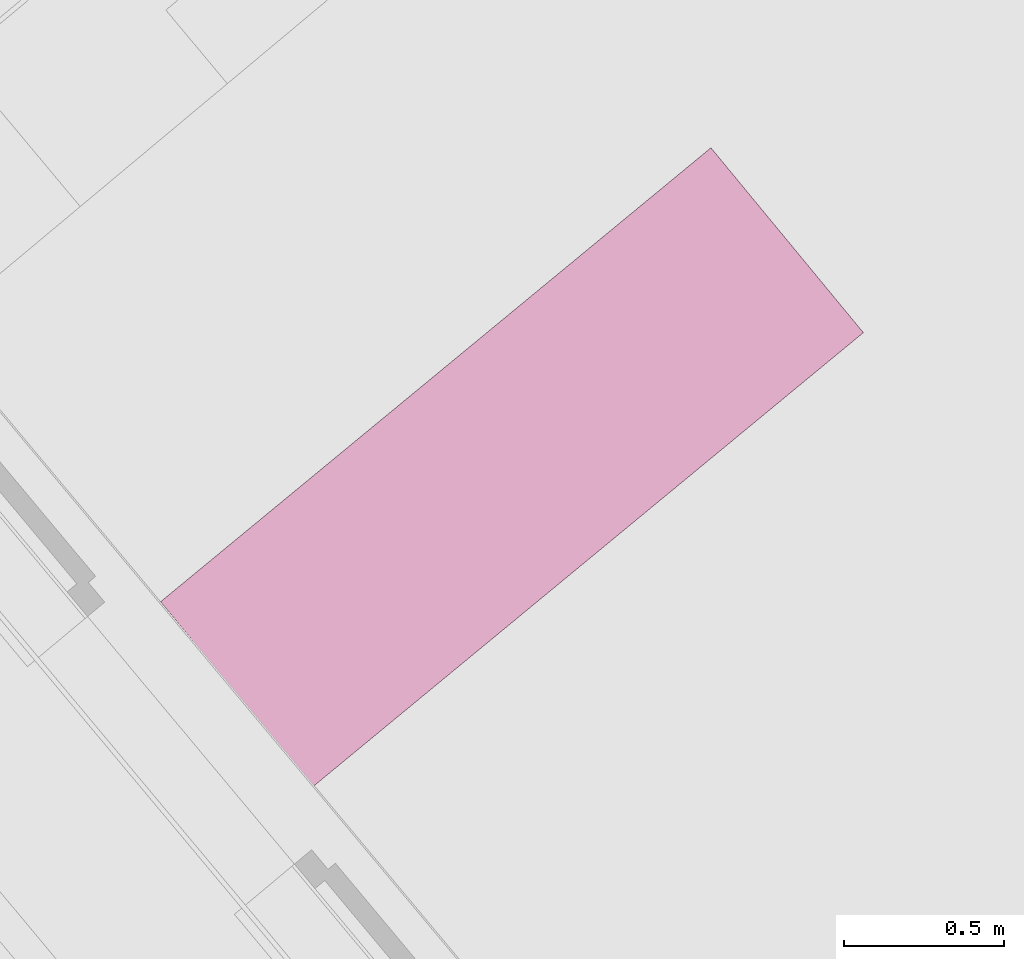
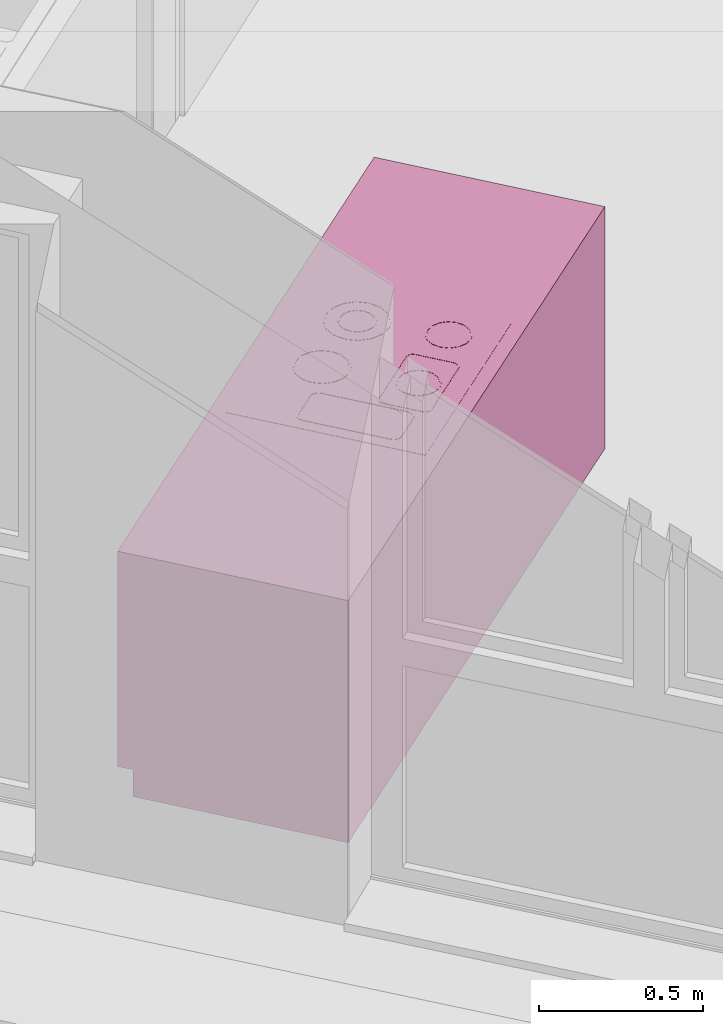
# One storey, part 55 of 58: 1 furniture element.
"""IFC4 building model written with IfcOpenShell, lengths in metres."""

from ifc_helpers import new_model, entity, si_unit, converted_unit, derived_unit, direction, frame, origin_with_axes, place, context, subcontext, project, spatial, polygons, source, transform, mapped, type_object, element, save


model = new_model("IFC4")

# Units and contexts
model_context = context("Model", 3, precision=1e-05, world=origin_with_axes(), true_north=direction((0.0, 1.0)))
body_context = subcontext(model_context, "Body", "Model", "MODEL_VIEW")
ifc_project = project(units=[si_unit("LENGTHUNIT", "METRE"), si_unit("AREAUNIT", "SQUARE_METRE"), si_unit("VOLUMEUNIT", "CUBIC_METRE"), converted_unit("PLANEANGLEUNIT", "DEGREE", entity("IfcPlaneAngleMeasure", 0.0174532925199), si_unit("PLANEANGLEUNIT", "RADIAN"), dimensions=[0, 0, 0, 0, 0, 0, 0]), converted_unit("TIMEUNIT", "Year", entity("IfcTimeMeasure", 31556926.0), si_unit("TIMEUNIT", "SECOND"), dimensions=[0, 0, 1, 0, 0, 0, 0]), si_unit("MASSUNIT", "GRAM", prefix="KILO"), si_unit("THERMODYNAMICTEMPERATUREUNIT", "DEGREE_CELSIUS"), si_unit("LUMINOUSINTENSITYUNIT", "LUMEN"), si_unit("ENERGYUNIT", "JOULE", prefix="MEGA"), derived_unit("THERMALCONDUCTANCEUNIT", [(si_unit("POWERUNIT", "WATT"), 1), (si_unit("LENGTHUNIT", "METRE"), -1), (si_unit("THERMODYNAMICTEMPERATUREUNIT", "KELVIN"), -1)]), derived_unit("SPECIFICHEATCAPACITYUNIT", [(si_unit("ENERGYUNIT", "JOULE"), 1), (si_unit("MASSUNIT", "GRAM", prefix="KILO"), -1), (si_unit("THERMODYNAMICTEMPERATUREUNIT", "KELVIN"), -1)]), derived_unit("MASSDENSITYUNIT", [(si_unit("MASSUNIT", "GRAM", prefix="KILO"), 1), (si_unit("VOLUMEUNIT", "CUBIC_METRE"), -1)])], contexts=[model_context])

# Site, building, storey
site_placement = place(None, frame((-0.00153261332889, -0.00661245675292, 0.0), z_axis=(0.0, 0.0, 1.0), x_axis=(1.0, 0.0, 0.0)))
site = spatial("IfcSite", under=ifc_project, at=site_placement, Name="Site", CompositionType="ELEMENT")
building_placement = place(site_placement, origin_with_axes())
building = spatial("IfcBuilding", under=site, at=building_placement, Name="Building", CompositionType="ELEMENT")
storey_placement = place(building_placement, frame((0.0, 0.0, 5.7), z_axis=(0.0, 0.0, 1.0), x_axis=(1.0, 0.0, 0.0)))
storey = spatial("IfcBuildingStorey", under=building, at=storey_placement, Name="DG1", CompositionType="ELEMENT", Elevation=5.7)

# Furniture
furniture_type = type_object("IfcFurnitureType", Name="Konzeptküche 26", AssemblyPlace="NOTDEFINED", PredefinedType="NOTDEFINED")
shared_shape = source(origin_with_axes(), body_context, "Body", "Tessellation", [
    polygons([(0.451386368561, 0.0111886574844, 0.0), (2.6840690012, -0.00300580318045, 0.0), (2.6840690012, -0.00300580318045, 0.1), (0.451386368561, 0.0111886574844, 0.1), (0.455836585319, 0.711174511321, 0.0), (2.68851921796, 0.696980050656, 0.0), (2.68851921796, 0.696980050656, 0.1), (0.455836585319, 0.711174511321, 0.1)], [[[1, 2, 3, 4]], [[1, 5, 6, 2]], [[2, 6, 7, 3]], [[4, 3, 7, 8]], [[5, 1, 4, 8]], [[6, 5, 8, 7]]], closed=True),
    polygons([(0.451386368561, 0.0111886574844, 0.85), (2.6840690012, -0.00300580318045, 0.85), (2.6840690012, -0.00300580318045, 0.9), (0.451386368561, 0.0111886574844, 0.9), (0.456154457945, 0.76117350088, 0.85), (2.68883709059, 0.746979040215, 0.85), (2.68883709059, 0.746979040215, 0.9), (0.456154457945, 0.76117350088, 0.9)], [[[1, 2, 3, 4]], [[1, 5, 6, 2]], [[2, 6, 7, 3]], [[4, 3, 7, 8]], [[5, 1, 4, 8]], [[6, 5, 8, 7]]], closed=True),
    polygons([(0.451386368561, 0.0111886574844, 0.1), (2.6840690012, -0.00300580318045, 0.1), (2.6840690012, -0.00300580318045, 0.85), (0.451386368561, 0.0111886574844, 0.85), (0.456154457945, 0.76117350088, 0.1), (2.68883709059, 0.746979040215, 0.1), (2.68883709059, 0.746979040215, 0.85), (0.456154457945, 0.76117350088, 0.85)], [[[1, 2, 3, 4]], [[1, 5, 6, 2]], [[2, 6, 7, 3]], [[4, 3, 7, 8]], [[5, 1, 4, 8]], [[6, 5, 8, 7]]], closed=True),
    polygons([(2.01007115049, 0.701293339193, 0.9), (2.00593880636, 0.0513064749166, 0.9), (1.25595396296, 0.0560745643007, 0.9), (1.26008630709, 0.706061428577, 0.9), (2.01007115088, 0.70129333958, 0.9008), (2.00593880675, 0.0513064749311, 0.9008), (1.25595396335, 0.0560745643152, 0.9008), (1.26008630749, 0.706061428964, 0.9008), (2.00322248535, 0.694531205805, 0.901999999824), (1.99917667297, 0.0581551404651, 0.901999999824), (1.26280262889, 0.0628366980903, 0.901999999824), (1.26684844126, 0.69921276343, 0.901999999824)], [[[1, 2, 3, 4]], [[2, 1, 5, 6]], [[3, 2, 6, 7]], [[4, 3, 7, 8]], [[1, 4, 8, 5]], [[6, 5, 9, 10]], [[7, 6, 10, 11]], [[8, 7, 11, 12]], [[5, 8, 12, 9]], [[11, 10, 9, 12]]], closed=True),
    polygons([(1.95268579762, 0.208298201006, 0.902), (1.94734355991, 0.236077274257, 0.902), (1.94734355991, 0.236077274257, 0.903), (1.95268579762, 0.208298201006, 0.903), (1.9469907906, 0.180589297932, 0.902), (1.93112555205, 0.157168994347, 0.902), (1.9075054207, 0.141602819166, 0.902), (1.87972634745, 0.136260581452, 0.902), (1.85201744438, 0.141955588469, 0.902), (1.82859714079, 0.157820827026, 0.902), (1.81303096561, 0.181440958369, 0.902), (1.8076887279, 0.20922003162, 0.902), (1.81338373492, 0.236928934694, 0.902), (1.82924897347, 0.260349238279, 0.902), (1.85286910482, 0.275915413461, 0.902), (1.88064817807, 0.281257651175, 0.902), (1.90835708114, 0.275562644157, 0.902), (1.93177738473, 0.259697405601, 0.902), (1.94768589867, 0.208329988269, 0.902), (1.94271209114, 0.234193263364, 0.902), (1.92821944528, 0.256184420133, 0.902), (1.90641433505, 0.270955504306, 0.902), (1.8806163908, 0.276257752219, 0.902), (1.85475311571, 0.271283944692, 0.902), (1.83276195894, 0.256791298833, 0.902), (1.81799087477, 0.234986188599, 0.902), (1.81268862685, 0.209188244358, 0.902), (1.81766243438, 0.183324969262, 0.902), (1.83215508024, 0.161333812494, 0.902), (1.85396019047, 0.146562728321, 0.902), (1.87975813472, 0.141260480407, 0.902), (1.90562140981, 0.146234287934, 0.902), (1.92761256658, 0.160726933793, 0.902), (1.94238365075, 0.182532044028, 0.902), (1.93177738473, 0.259697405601, 0.903), (1.90835708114, 0.275562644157, 0.903), (1.88064817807, 0.281257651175, 0.903), (1.85286910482, 0.275915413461, 0.903), (1.82924897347, 0.260349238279, 0.903), (1.81338373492, 0.236928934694, 0.903), (1.8076887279, 0.20922003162, 0.903), (1.81303096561, 0.181440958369, 0.903), (1.82859714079, 0.157820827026, 0.903), (1.85201744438, 0.141955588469, 0.903), (1.87972634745, 0.136260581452, 0.903), (1.9075054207, 0.141602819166, 0.903), (1.93112555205, 0.157168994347, 0.903), (1.9469907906, 0.180589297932, 0.903), (1.94768589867, 0.208329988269, 0.903), (1.94238365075, 0.182532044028, 0.903), (1.92761256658, 0.160726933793, 0.903), (1.90562140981, 0.146234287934, 0.903), (1.87975813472, 0.141260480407, 0.903), (1.85396019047, 0.146562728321, 0.903), (1.83215508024, 0.161333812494, 0.903), (1.81766243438, 0.183324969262, 0.903), (1.81268862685, 0.209188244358, 0.903), (1.81799087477, 0.234986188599, 0.903), (1.83276195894, 0.256791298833, 0.903), (1.85475311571, 0.271283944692, 0.903), (1.8806163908, 0.276257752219, 0.903), (1.90641433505, 0.270955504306, 0.903), (1.92821944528, 0.256184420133, 0.903), (1.94271209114, 0.234193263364, 0.903)], [[[1, 2, 3, 4]], [[1, 5, 6, 7, 8, 9, 10, 11, 12, 13, 14, 15, 16, 17, 18, 2], [19, 20, 21, 22, 23, 24, 25, 26, 27, 28, 29, 30, 31, 32, 33, 34]], [[2, 18, 35, 3]], [[4, 3, 35, 36, 37, 38, 39, 40, 41, 42, 43, 44, 45, 46, 47, 48], [49, 50, 51, 52, 53, 54, 55, 56, 57, 58, 59, 60, 61, 62, 63, 64]], [[5, 1, 4, 48]], [[6, 5, 48, 47]], [[7, 6, 47, 46]], [[8, 7, 46, 45]], [[9, 8, 45, 44]], [[10, 9, 44, 43]], [[11, 10, 43, 42]], [[12, 11, 42, 41]], [[13, 12, 41, 40]], [[14, 13, 40, 39]], [[15, 14, 39, 38]], [[16, 15, 38, 37]], [[17, 16, 37, 36]], [[18, 17, 36, 35]], [[20, 19, 49, 64]], [[21, 20, 64, 63]], [[22, 21, 63, 62]], [[23, 22, 62, 61]], [[24, 23, 61, 60]], [[25, 24, 60, 59]], [[26, 25, 59, 58]], [[27, 26, 58, 57]], [[28, 27, 57, 56]], [[29, 28, 56, 55]], [[30, 29, 55, 54]], [[31, 30, 54, 53]], [[32, 31, 53, 52]], [[33, 32, 52, 51]], [[34, 33, 51, 50]], [[19, 34, 50, 49]]], closed=True),
    polygons([(1.9127590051, 0.495207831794, 0.902), (1.90833784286, 0.518197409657, 0.902), (1.90833784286, 0.518197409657, 0.903), (1.9127590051, 0.495207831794, 0.903), (1.90804589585, 0.472276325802, 0.902), (1.89491604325, 0.452894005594, 0.902), (1.87536834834, 0.44001165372, 0.902), (1.85237877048, 0.435590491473, 0.902), (1.82944726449, 0.440303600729, 0.902), (1.81006494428, 0.453433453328, 0.902), (1.7971825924, 0.472981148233, 0.902), (1.79276143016, 0.495970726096, 0.902), (1.79747453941, 0.518902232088, 0.902), (1.81060439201, 0.538284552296, 0.902), (1.83015208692, 0.551166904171, 0.902), (1.85314166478, 0.555588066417, 0.902), (1.87607317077, 0.550874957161, 0.902), (1.89545549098, 0.537745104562, 0.902), (1.90775910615, 0.495239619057, 0.902), (1.90370637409, 0.516313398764, 0.902), (1.89189755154, 0.534232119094, 0.902), (1.87413042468, 0.546267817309, 0.902), (1.85310987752, 0.550588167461, 0.902), (1.83203609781, 0.546535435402, 0.902), (1.81411737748, 0.53472661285, 0.902), (1.80208167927, 0.516959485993, 0.902), (1.79776132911, 0.495938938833, 0.902), (1.80181406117, 0.474865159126, 0.902), (1.81362288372, 0.456946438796, 0.902), (1.83139001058, 0.444910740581, 0.902), (1.85241055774, 0.440590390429, 0.902), (1.87348433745, 0.444643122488, 0.902), (1.89140305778, 0.45645194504, 0.902), (1.90343875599, 0.474219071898, 0.902), (1.89545549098, 0.537745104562, 0.903), (1.87607317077, 0.550874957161, 0.903), (1.85314166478, 0.555588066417, 0.903), (1.83015208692, 0.551166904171, 0.903), (1.81060439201, 0.538284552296, 0.903), (1.79747453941, 0.518902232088, 0.903), (1.79276143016, 0.495970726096, 0.903), (1.7971825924, 0.472981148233, 0.903), (1.81006494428, 0.453433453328, 0.903), (1.82944726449, 0.440303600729, 0.903), (1.85237877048, 0.435590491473, 0.903), (1.87536834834, 0.44001165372, 0.903), (1.89491604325, 0.452894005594, 0.903), (1.90804589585, 0.472276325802, 0.903), (1.90775910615, 0.495239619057, 0.903), (1.90343875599, 0.474219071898, 0.903), (1.89140305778, 0.45645194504, 0.903), (1.87348433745, 0.444643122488, 0.903), (1.85241055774, 0.440590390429, 0.903), (1.83139001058, 0.444910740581, 0.903), (1.81362288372, 0.456946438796, 0.903), (1.80181406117, 0.474865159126, 0.903), (1.79776132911, 0.495938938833, 0.903), (1.80208167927, 0.516959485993, 0.903), (1.81411737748, 0.53472661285, 0.903), (1.83203609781, 0.546535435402, 0.903), (1.85310987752, 0.550588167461, 0.903), (1.87413042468, 0.546267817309, 0.903), (1.89189755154, 0.534232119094, 0.903), (1.90370637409, 0.516313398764, 0.903)], [[[1, 2, 3, 4]], [[1, 5, 6, 7, 8, 9, 10, 11, 12, 13, 14, 15, 16, 17, 18, 2], [19, 20, 21, 22, 23, 24, 25, 26, 27, 28, 29, 30, 31, 32, 33, 34]], [[2, 18, 35, 3]], [[4, 3, 35, 36, 37, 38, 39, 40, 41, 42, 43, 44, 45, 46, 47, 48], [49, 50, 51, 52, 53, 54, 55, 56, 57, 58, 59, 60, 61, 62, 63, 64]], [[5, 1, 4, 48]], [[6, 5, 48, 47]], [[7, 6, 47, 46]], [[8, 7, 46, 45]], [[9, 8, 45, 44]], [[10, 9, 44, 43]], [[11, 10, 43, 42]], [[12, 11, 42, 41]], [[13, 12, 41, 40]], [[14, 13, 40, 39]], [[15, 14, 39, 38]], [[16, 15, 38, 37]], [[17, 16, 37, 36]], [[18, 17, 36, 35]], [[20, 19, 49, 64]], [[21, 20, 64, 63]], [[22, 21, 63, 62]], [[23, 22, 62, 61]], [[24, 23, 61, 60]], [[25, 24, 60, 59]], [[26, 25, 59, 58]], [[27, 26, 58, 57]], [[28, 27, 57, 56]], [[29, 28, 56, 55]], [[30, 29, 55, 54]], [[31, 30, 54, 53]], [[32, 31, 53, 52]], [[33, 32, 52, 51]], [[34, 33, 51, 50]], [[19, 34, 50, 49]]], closed=True),
    polygons([(1.95775809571, 0.494921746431, 0.902), (1.95002106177, 0.535153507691, 0.902), (1.95002106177, 0.535153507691, 0.903), (1.95775809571, 0.494921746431, 0.903), (1.94951015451, 0.454791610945, 0.902), (1.92653291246, 0.420872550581, 0.902), (1.89232444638, 0.3983284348, 0.902), (1.85209268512, 0.39059140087, 0.902), (1.81196254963, 0.398839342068, 0.902), (1.77804348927, 0.421816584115, 0.902), (1.75549937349, 0.456025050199, 0.902), (1.74776233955, 0.496256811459, 0.902), (1.75601028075, 0.536386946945, 0.902), (1.7789875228, 0.57030600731, 0.902), (1.81319598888, 0.59285012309, 0.902), (1.85342775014, 0.60058715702, 0.902), (1.89355788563, 0.592339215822, 0.902), (1.92747694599, 0.569361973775, 0.902), (1.95275819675, 0.494953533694, 0.902), (1.94538959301, 0.533269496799, 0.902), (1.92391900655, 0.565848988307, 0.902), (1.89161513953, 0.587732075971, 0.902), (1.85339596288, 0.595587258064, 0.902), (1.81507999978, 0.588218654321, 0.902), (1.78250050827, 0.566748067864, 0.902), (1.7606174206, 0.53444420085, 0.902), (1.75276223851, 0.496225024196, 0.902), (1.76013084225, 0.457909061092, 0.902), (1.78160142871, 0.425329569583, 0.902), (1.81390529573, 0.403446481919, 0.902), (1.85212447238, 0.395591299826, 0.902), (1.89044043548, 0.402959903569, 0.902), (1.92301992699, 0.424430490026, 0.902), (1.94490301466, 0.456734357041, 0.902), (1.92747694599, 0.569361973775, 0.903), (1.89355788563, 0.592339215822, 0.903), (1.85342775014, 0.60058715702, 0.903), (1.81319598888, 0.59285012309, 0.903), (1.7789875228, 0.57030600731, 0.903), (1.75601028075, 0.536386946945, 0.903), (1.74776233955, 0.496256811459, 0.903), (1.75549937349, 0.456025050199, 0.903), (1.77804348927, 0.421816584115, 0.903), (1.81196254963, 0.398839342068, 0.903), (1.85209268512, 0.39059140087, 0.903), (1.89232444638, 0.3983284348, 0.903), (1.92653291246, 0.420872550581, 0.903), (1.94951015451, 0.454791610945, 0.903), (1.95275819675, 0.494953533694, 0.903), (1.94490301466, 0.456734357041, 0.903), (1.92301992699, 0.424430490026, 0.903), (1.89044043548, 0.402959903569, 0.903), (1.85212447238, 0.395591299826, 0.903), (1.81390529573, 0.403446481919, 0.903), (1.78160142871, 0.425329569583, 0.903), (1.76013084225, 0.457909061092, 0.903), (1.75276223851, 0.496225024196, 0.903), (1.7606174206, 0.53444420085, 0.903), (1.78250050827, 0.566748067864, 0.903), (1.81507999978, 0.588218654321, 0.903), (1.85339596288, 0.595587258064, 0.903), (1.89161513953, 0.587732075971, 0.903), (1.92391900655, 0.565848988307, 0.903), (1.94538959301, 0.533269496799, 0.903)], [[[1, 2, 3, 4]], [[1, 5, 6, 7, 8, 9, 10, 11, 12, 13, 14, 15, 16, 17, 18, 2], [19, 20, 21, 22, 23, 24, 25, 26, 27, 28, 29, 30, 31, 32, 33, 34]], [[2, 18, 35, 3]], [[4, 3, 35, 36, 37, 38, 39, 40, 41, 42, 43, 44, 45, 46, 47, 48], [49, 50, 51, 52, 53, 54, 55, 56, 57, 58, 59, 60, 61, 62, 63, 64]], [[5, 1, 4, 48]], [[6, 5, 48, 47]], [[7, 6, 47, 46]], [[8, 7, 46, 45]], [[9, 8, 45, 44]], [[10, 9, 44, 43]], [[11, 10, 43, 42]], [[12, 11, 42, 41]], [[13, 12, 41, 40]], [[14, 13, 40, 39]], [[15, 14, 39, 38]], [[16, 15, 38, 37]], [[17, 16, 37, 36]], [[18, 17, 36, 35]], [[20, 19, 49, 64]], [[21, 20, 64, 63]], [[22, 21, 63, 62]], [[23, 22, 62, 61]], [[24, 23, 61, 60]], [[25, 24, 60, 59]], [[26, 25, 59, 58]], [[27, 26, 58, 57]], [[28, 27, 57, 56]], [[29, 28, 56, 55]], [[30, 29, 55, 54]], [[31, 30, 54, 53]], [[32, 31, 53, 52]], [[33, 32, 52, 51]], [[34, 33, 51, 50]], [[19, 34, 50, 49]]], closed=True),
    polygons([(1.67867067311, 0.206790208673, 0.902), (1.67351265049, 0.233611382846, 0.902), (1.67351265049, 0.233611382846, 0.903), (1.67867067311, 0.206790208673, 0.903), (1.67317204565, 0.180036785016, 0.902), (1.65785388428, 0.157424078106, 0.902), (1.63504824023, 0.142394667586, 0.902), (1.60822706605, 0.137236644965, 0.902), (1.5814736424, 0.142735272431, 0.902), (1.55886093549, 0.158053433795, 0.902), (1.54383152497, 0.180859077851, 0.902), (1.53867350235, 0.207680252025, 0.902), (1.54417212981, 0.234433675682, 0.902), (1.55949029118, 0.257046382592, 0.902), (1.58229593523, 0.272075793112, 0.902), (1.60911710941, 0.277233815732, 0.902), (1.63587053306, 0.271735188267, 0.902), (1.65848323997, 0.256417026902, 0.902), (1.67367077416, 0.206821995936, 0.902), (1.66888118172, 0.231727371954, 0.902), (1.65492530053, 0.252904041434, 0.902), (1.63392778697, 0.267128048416, 0.902), (1.60908532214, 0.272233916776, 0.902), (1.58417994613, 0.267444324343, 0.902), (1.56300327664, 0.253488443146, 0.902), (1.54877926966, 0.232490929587, 0.902), (1.5436734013, 0.207648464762, 0.902), (1.54846299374, 0.182743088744, 0.902), (1.56241887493, 0.161566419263, 0.902), (1.58341638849, 0.147342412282, 0.902), (1.60825885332, 0.142236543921, 0.902), (1.63316422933, 0.147026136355, 0.902), (1.65434089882, 0.160982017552, 0.902), (1.6685649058, 0.181979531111, 0.902), (1.65848323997, 0.256417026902, 0.903), (1.63587053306, 0.271735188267, 0.903), (1.60911710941, 0.277233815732, 0.903), (1.58229593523, 0.272075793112, 0.903), (1.55949029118, 0.257046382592, 0.903), (1.54417212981, 0.234433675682, 0.903), (1.53867350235, 0.207680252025, 0.903), (1.54383152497, 0.180859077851, 0.903), (1.55886093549, 0.158053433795, 0.903), (1.5814736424, 0.142735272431, 0.903), (1.60822706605, 0.137236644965, 0.903), (1.63504824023, 0.142394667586, 0.903), (1.65785388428, 0.157424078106, 0.903), (1.67317204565, 0.180036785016, 0.903), (1.67367077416, 0.206821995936, 0.903), (1.6685649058, 0.181979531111, 0.903), (1.65434089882, 0.160982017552, 0.903), (1.63316422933, 0.147026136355, 0.903), (1.60825885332, 0.142236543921, 0.903), (1.58341638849, 0.147342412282, 0.903), (1.56241887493, 0.161566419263, 0.903), (1.54846299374, 0.182743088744, 0.903), (1.5436734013, 0.207648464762, 0.903), (1.54877926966, 0.232490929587, 0.903), (1.56300327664, 0.253488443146, 0.903), (1.58417994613, 0.267444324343, 0.903), (1.60908532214, 0.272233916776, 0.903), (1.63392778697, 0.267128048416, 0.903), (1.65492530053, 0.252904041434, 0.903), (1.66888118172, 0.231727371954, 0.903)], [[[1, 2, 3, 4]], [[1, 5, 6, 7, 8, 9, 10, 11, 12, 13, 14, 15, 16, 17, 18, 2], [19, 20, 21, 22, 23, 24, 25, 26, 27, 28, 29, 30, 31, 32, 33, 34]], [[2, 18, 35, 3]], [[4, 3, 35, 36, 37, 38, 39, 40, 41, 42, 43, 44, 45, 46, 47, 48], [49, 50, 51, 52, 53, 54, 55, 56, 57, 58, 59, 60, 61, 62, 63, 64]], [[5, 1, 4, 48]], [[6, 5, 48, 47]], [[7, 6, 47, 46]], [[8, 7, 46, 45]], [[9, 8, 45, 44]], [[10, 9, 44, 43]], [[11, 10, 43, 42]], [[12, 11, 42, 41]], [[13, 12, 41, 40]], [[14, 13, 40, 39]], [[15, 14, 39, 38]], [[16, 15, 38, 37]], [[17, 16, 37, 36]], [[18, 17, 36, 35]], [[20, 19, 49, 64]], [[21, 20, 64, 63]], [[22, 21, 63, 62]], [[23, 22, 62, 61]], [[24, 23, 61, 60]], [[25, 24, 60, 59]], [[26, 25, 59, 58]], [[27, 26, 58, 57]], [[28, 27, 57, 56]], [[29, 28, 56, 55]], [[30, 29, 55, 54]], [[31, 30, 54, 53]], [[32, 31, 53, 52]], [[33, 32, 52, 51]], [[34, 33, 51, 50]], [[19, 34, 50, 49]]], closed=True),
    polygons([(1.67698381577, 0.511657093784, 0.902), (1.6703520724, 0.546141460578, 0.902), (1.6703520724, 0.546141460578, 0.903), (1.67698381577, 0.511657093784, 0.903), (1.66991415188, 0.477259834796, 0.902), (1.65021937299, 0.448186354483, 0.902), (1.62089783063, 0.428862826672, 0.902), (1.58641346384, 0.422231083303, 0.902), (1.55201620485, 0.429300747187, 0.902), (1.52294272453, 0.448995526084, 0.902), (1.50361919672, 0.478317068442, 0.902), (1.49698745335, 0.512801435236, 0.902), (1.50405711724, 0.547198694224, 0.902), (1.52375189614, 0.576272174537, 0.902), (1.55307343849, 0.595595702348, 0.902), (1.58755780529, 0.602227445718, 0.902), (1.62195506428, 0.595157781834, 0.902), (1.65102854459, 0.575463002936, 0.902), (1.67198391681, 0.511688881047, 0.902), (1.66572060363, 0.544257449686, 0.902), (1.64747060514, 0.571950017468, 0.902), (1.62001231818, 0.590550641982, 0.902), (1.58752601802, 0.597227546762, 0.902), (1.55495744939, 0.590964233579, 0.902), (1.5272648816, 0.572714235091, 0.902), (1.50866425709, 0.545255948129, 0.902), (1.50198735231, 0.512769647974, 0.902), (1.50825066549, 0.480201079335, 0.902), (1.52650066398, 0.452508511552, 0.902), (1.55395895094, 0.433907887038, 0.902), (1.5864452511, 0.427230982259, 0.902), (1.61901381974, 0.433494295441, 0.902), (1.64670638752, 0.451744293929, 0.902), (1.66530701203, 0.479202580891, 0.902), (1.65102854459, 0.575463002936, 0.903), (1.62195506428, 0.595157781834, 0.903), (1.58755780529, 0.602227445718, 0.903), (1.55307343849, 0.595595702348, 0.903), (1.52375189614, 0.576272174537, 0.903), (1.50405711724, 0.547198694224, 0.903), (1.49698745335, 0.512801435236, 0.903), (1.50361919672, 0.478317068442, 0.903), (1.52294272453, 0.448995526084, 0.903), (1.55201620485, 0.429300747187, 0.903), (1.58641346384, 0.422231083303, 0.903), (1.62089783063, 0.428862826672, 0.903), (1.65021937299, 0.448186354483, 0.903), (1.66991415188, 0.477259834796, 0.903), (1.67198391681, 0.511688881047, 0.903), (1.66530701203, 0.479202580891, 0.903), (1.64670638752, 0.451744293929, 0.903), (1.61901381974, 0.433494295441, 0.903), (1.5864452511, 0.427230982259, 0.903), (1.55395895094, 0.433907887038, 0.903), (1.52650066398, 0.452508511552, 0.903), (1.50825066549, 0.480201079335, 0.903), (1.50198735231, 0.512769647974, 0.903), (1.50866425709, 0.545255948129, 0.903), (1.5272648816, 0.572714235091, 0.903), (1.55495744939, 0.590964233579, 0.903), (1.58752601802, 0.597227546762, 0.903), (1.62001231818, 0.590550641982, 0.903), (1.64747060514, 0.571950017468, 0.903), (1.66572060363, 0.544257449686, 0.903)], [[[1, 2, 3, 4]], [[1, 5, 6, 7, 8, 9, 10, 11, 12, 13, 14, 15, 16, 17, 18, 2], [19, 20, 21, 22, 23, 24, 25, 26, 27, 28, 29, 30, 31, 32, 33, 34]], [[2, 18, 35, 3]], [[4, 3, 35, 36, 37, 38, 39, 40, 41, 42, 43, 44, 45, 46, 47, 48], [49, 50, 51, 52, 53, 54, 55, 56, 57, 58, 59, 60, 61, 62, 63, 64]], [[5, 1, 4, 48]], [[6, 5, 48, 47]], [[7, 6, 47, 46]], [[8, 7, 46, 45]], [[9, 8, 45, 44]], [[10, 9, 44, 43]], [[11, 10, 43, 42]], [[12, 11, 42, 41]], [[13, 12, 41, 40]], [[14, 13, 40, 39]], [[15, 14, 39, 38]], [[16, 15, 38, 37]], [[17, 16, 37, 36]], [[18, 17, 36, 35]], [[20, 19, 49, 64]], [[21, 20, 64, 63]], [[22, 21, 63, 62]], [[23, 22, 62, 61]], [[24, 23, 61, 60]], [[25, 24, 60, 59]], [[26, 25, 59, 58]], [[27, 26, 58, 57]], [[28, 27, 57, 56]], [[29, 28, 56, 55]], [[30, 29, 55, 54]], [[31, 30, 54, 53]], [[32, 31, 53, 52]], [[33, 32, 52, 51]], [[34, 33, 51, 50]], [[19, 34, 50, 49]]], closed=True),
    polygons([(1.72815115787, 0.294201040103, 0.902), (1.49030841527, 0.295713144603, 0.902), (1.49030841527, 0.295713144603, 0.903), (1.72815115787, 0.294201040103, 0.903), (1.73655937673, 0.292472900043, 0.902), (1.74366622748, 0.287658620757, 0.902), (1.7483897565, 0.280491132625, 0.902), (1.75001084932, 0.272061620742, 0.902), (1.74917517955, 0.140617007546, 0.902), (1.74744703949, 0.132208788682, 0.902), (1.7426327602, 0.125101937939, 0.902), (1.73546527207, 0.120378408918, 0.902), (1.72703576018, 0.118757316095, 0.902), (1.48919301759, 0.120269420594, 0.902), (1.48078479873, 0.121997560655, 0.902), (1.47367794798, 0.126811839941, 0.902), (1.46895441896, 0.133979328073, 0.902), (1.46733332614, 0.142408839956, 0.902), (1.46816899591, 0.273853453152, 0.902), (1.46989713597, 0.282261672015, 0.902), (1.47471141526, 0.289368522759, 0.902), (1.48187890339, 0.294092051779, 0.902), (1.72406760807, 0.123776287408, 0.902), (1.73173080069, 0.125250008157, 0.902), (1.738246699, 0.129544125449, 0.902), (1.74262331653, 0.136004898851, 0.902), (1.74419435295, 0.143648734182, 0.902), (1.74499187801, 0.269093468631, 0.902), (1.74351815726, 0.276756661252, 0.902), (1.73922403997, 0.283272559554, 0.902), (1.73276326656, 0.287649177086, 0.902), (1.72511943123, 0.289220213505, 0.902), (1.49327656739, 0.290694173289, 0.902), (1.48561337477, 0.28922045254, 0.902), (1.47909747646, 0.284926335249, 0.902), (1.47472085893, 0.278465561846, 0.902), (1.47314982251, 0.270821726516, 0.902), (1.47235229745, 0.145376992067, 0.902), (1.4738260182, 0.137713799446, 0.902), (1.47812013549, 0.131197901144, 0.902), (1.4845809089, 0.126821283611, 0.902), (1.49222474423, 0.125250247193, 0.902), (1.48187890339, 0.294092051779, 0.903), (1.47471141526, 0.289368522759, 0.903), (1.46989713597, 0.282261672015, 0.903), (1.46816899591, 0.273853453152, 0.903), (1.46733332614, 0.142408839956, 0.903), (1.46895441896, 0.133979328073, 0.903), (1.47367794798, 0.126811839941, 0.903), (1.48078479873, 0.121997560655, 0.903), (1.48919301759, 0.120269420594, 0.903), (1.72703576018, 0.118757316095, 0.903), (1.73546527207, 0.120378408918, 0.903), (1.7426327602, 0.125101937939, 0.903), (1.74744703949, 0.132208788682, 0.903), (1.74917517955, 0.140617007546, 0.903), (1.75001084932, 0.272061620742, 0.903), (1.7483897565, 0.280491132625, 0.903), (1.74366622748, 0.287658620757, 0.903), (1.73655937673, 0.292472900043, 0.903), (1.72406760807, 0.123776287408, 0.903), (1.49222474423, 0.125250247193, 0.903), (1.4845809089, 0.126821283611, 0.903), (1.47812013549, 0.131197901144, 0.903), (1.4738260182, 0.137713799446, 0.903), (1.47235229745, 0.145376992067, 0.903), (1.47314982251, 0.270821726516, 0.903), (1.47472085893, 0.278465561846, 0.903), (1.47909747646, 0.284926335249, 0.903), (1.48561337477, 0.28922045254, 0.903), (1.49327656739, 0.290694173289, 0.903), (1.72511943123, 0.289220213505, 0.903), (1.73276326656, 0.287649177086, 0.903), (1.73922403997, 0.283272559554, 0.903), (1.74351815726, 0.276756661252, 0.903), (1.74499187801, 0.269093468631, 0.903), (1.74419435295, 0.143648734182, 0.903), (1.74262331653, 0.136004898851, 0.903), (1.738246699, 0.129544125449, 0.903), (1.73173080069, 0.125250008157, 0.903)], [[[1, 2, 3, 4]], [[1, 5, 6, 7, 8, 9, 10, 11, 12, 13, 14, 15, 16, 17, 18, 19, 20, 21, 22, 2], [23, 24, 25, 26, 27, 28, 29, 30, 31, 32, 33, 34, 35, 36, 37, 38, 39, 40, 41, 42]], [[2, 22, 43, 3]], [[4, 3, 43, 44, 45, 46, 47, 48, 49, 50, 51, 52, 53, 54, 55, 56, 57, 58, 59, 60], [61, 62, 63, 64, 65, 66, 67, 68, 69, 70, 71, 72, 73, 74, 75, 76, 77, 78, 79, 80]], [[5, 1, 4, 60]], [[6, 5, 60, 59]], [[7, 6, 59, 58]], [[8, 7, 58, 57]], [[9, 8, 57, 56]], [[10, 9, 56, 55]], [[11, 10, 55, 54]], [[12, 11, 54, 53]], [[13, 12, 53, 52]], [[14, 13, 52, 51]], [[15, 14, 51, 50]], [[16, 15, 50, 49]], [[17, 16, 49, 48]], [[18, 17, 48, 47]], [[19, 18, 47, 46]], [[20, 19, 46, 45]], [[21, 20, 45, 44]], [[22, 21, 44, 43]], [[24, 23, 61, 80]], [[25, 24, 80, 79]], [[26, 25, 79, 78]], [[27, 26, 78, 77]], [[28, 27, 77, 76]], [[29, 28, 76, 75]], [[30, 29, 75, 74]], [[31, 30, 74, 73]], [[32, 31, 73, 72]], [[33, 32, 72, 71]], [[34, 33, 71, 70]], [[35, 34, 70, 69]], [[36, 35, 69, 68]], [[37, 36, 68, 67]], [[38, 37, 67, 66]], [[39, 38, 66, 65]], [[40, 39, 65, 64]], [[41, 40, 64, 63]], [[42, 41, 63, 62]], [[23, 42, 62, 61]]], closed=True),
    polygons([(1.45676176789, 0.182500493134, 0.902), (1.45859271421, 0.470494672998, 0.902), (1.45859271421, 0.470494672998, 0.903), (1.45676176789, 0.182500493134, 0.903), (1.45471942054, 0.172563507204, 0.902), (1.44902981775, 0.16416450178, 0.902), (1.44055914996, 0.158582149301, 0.902), (1.43059699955, 0.156666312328, 0.902), (1.3225991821, 0.157352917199, 0.902), (1.31266219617, 0.159395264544, 0.902), (1.30426319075, 0.165084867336, 0.902), (1.29868083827, 0.173555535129, 0.902), (1.2967650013, 0.183517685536, 0.902), (1.29859594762, 0.4715118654, 0.902), (1.30063829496, 0.48144885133, 0.902), (1.30632789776, 0.489847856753, 0.902), (1.31479856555, 0.495430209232, 0.902), (1.32476071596, 0.497346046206, 0.902), (1.4327585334, 0.496659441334, 0.902), (1.44269551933, 0.49461709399, 0.902), (1.45109452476, 0.488927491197, 0.902), (1.45667687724, 0.480456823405, 0.902), (1.42562888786, 0.161697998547, 0.902), (1.43559103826, 0.16361383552, 0.902), (1.44406170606, 0.169196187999, 0.902), (1.44975130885, 0.177595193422, 0.902), (1.45179365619, 0.187532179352, 0.902), (1.45356102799, 0.465526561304, 0.902), (1.45164519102, 0.475488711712, 0.902), (1.44606283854, 0.483959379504, 0.902), (1.43766383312, 0.489648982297, 0.902), (1.42772684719, 0.491691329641, 0.902), (1.32972882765, 0.492314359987, 0.902), (1.31976667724, 0.490398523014, 0.902), (1.31129600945, 0.484816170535, 0.902), (1.30560640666, 0.476417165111, 0.902), (1.30356405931, 0.466480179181, 0.902), (1.30179668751, 0.188485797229, 0.902), (1.30371252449, 0.178523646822, 0.902), (1.30929487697, 0.17005297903, 0.902), (1.31769388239, 0.164363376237, 0.902), (1.32763086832, 0.162321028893, 0.902), (1.45667687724, 0.480456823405, 0.903), (1.45109452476, 0.488927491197, 0.903), (1.44269551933, 0.49461709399, 0.903), (1.4327585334, 0.496659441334, 0.903), (1.32476071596, 0.497346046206, 0.903), (1.31479856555, 0.495430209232, 0.903), (1.30632789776, 0.489847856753, 0.903), (1.30063829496, 0.48144885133, 0.903), (1.29859594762, 0.4715118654, 0.903), (1.2967650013, 0.183517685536, 0.903), (1.29868083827, 0.173555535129, 0.903), (1.30426319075, 0.165084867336, 0.903), (1.31266219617, 0.159395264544, 0.903), (1.3225991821, 0.157352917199, 0.903), (1.43059699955, 0.156666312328, 0.903), (1.44055914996, 0.158582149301, 0.903), (1.44902981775, 0.16416450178, 0.903), (1.45471942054, 0.172563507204, 0.903), (1.42562888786, 0.161697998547, 0.903), (1.32763086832, 0.162321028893, 0.903), (1.31769388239, 0.164363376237, 0.903), (1.30929487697, 0.17005297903, 0.903), (1.30371252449, 0.178523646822, 0.903), (1.30179668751, 0.188485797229, 0.903), (1.30356405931, 0.466480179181, 0.903), (1.30560640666, 0.476417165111, 0.903), (1.31129600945, 0.484816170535, 0.903), (1.31976667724, 0.490398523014, 0.903), (1.32972882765, 0.492314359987, 0.903), (1.42772684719, 0.491691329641, 0.903), (1.43766383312, 0.489648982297, 0.903), (1.44606283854, 0.483959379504, 0.903), (1.45164519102, 0.475488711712, 0.903), (1.45356102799, 0.465526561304, 0.903), (1.45179365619, 0.187532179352, 0.903), (1.44975130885, 0.177595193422, 0.903), (1.44406170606, 0.169196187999, 0.903), (1.43559103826, 0.16361383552, 0.903)], [[[1, 2, 3, 4]], [[1, 5, 6, 7, 8, 9, 10, 11, 12, 13, 14, 15, 16, 17, 18, 19, 20, 21, 22, 2], [23, 24, 25, 26, 27, 28, 29, 30, 31, 32, 33, 34, 35, 36, 37, 38, 39, 40, 41, 42]], [[2, 22, 43, 3]], [[4, 3, 43, 44, 45, 46, 47, 48, 49, 50, 51, 52, 53, 54, 55, 56, 57, 58, 59, 60], [61, 62, 63, 64, 65, 66, 67, 68, 69, 70, 71, 72, 73, 74, 75, 76, 77, 78, 79, 80]], [[5, 1, 4, 60]], [[6, 5, 60, 59]], [[7, 6, 59, 58]], [[8, 7, 58, 57]], [[9, 8, 57, 56]], [[10, 9, 56, 55]], [[11, 10, 55, 54]], [[12, 11, 54, 53]], [[13, 12, 53, 52]], [[14, 13, 52, 51]], [[15, 14, 51, 50]], [[16, 15, 50, 49]], [[17, 16, 49, 48]], [[18, 17, 48, 47]], [[19, 18, 47, 46]], [[20, 19, 46, 45]], [[21, 20, 45, 44]], [[22, 21, 44, 43]], [[24, 23, 61, 80]], [[25, 24, 80, 79]], [[26, 25, 79, 78]], [[27, 26, 78, 77]], [[28, 27, 77, 76]], [[29, 28, 76, 75]], [[30, 29, 75, 74]], [[31, 30, 74, 73]], [[32, 31, 73, 72]], [[33, 32, 72, 71]], [[34, 33, 71, 70]], [[35, 34, 70, 69]], [[36, 35, 69, 68]], [[37, 36, 68, 67]], [[38, 37, 67, 66]], [[39, 38, 66, 65]], [[40, 39, 65, 64]], [[41, 40, 64, 63]], [[42, 41, 63, 62]], [[23, 42, 62, 61]]], closed=True),
])
furniture_placement = place(storey_placement, frame((-3.65370290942, 12.9430568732, 0.22), z_axis=(0.0, 0.0, 1.0), x_axis=(0.767365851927, 0.641209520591, 0.0)))
element("IfcFurniture", 1, at=furniture_placement, inside=storey, type_object=furniture_type, Name="Objekt-0002", PredefinedType="NOTDEFINED", context=body_context, shape_type="MappedRepresentation", body=[
    mapped(shared_shape, transform((0.0, 0.0, 0.0))),
])

save(model, "model.ifc")
